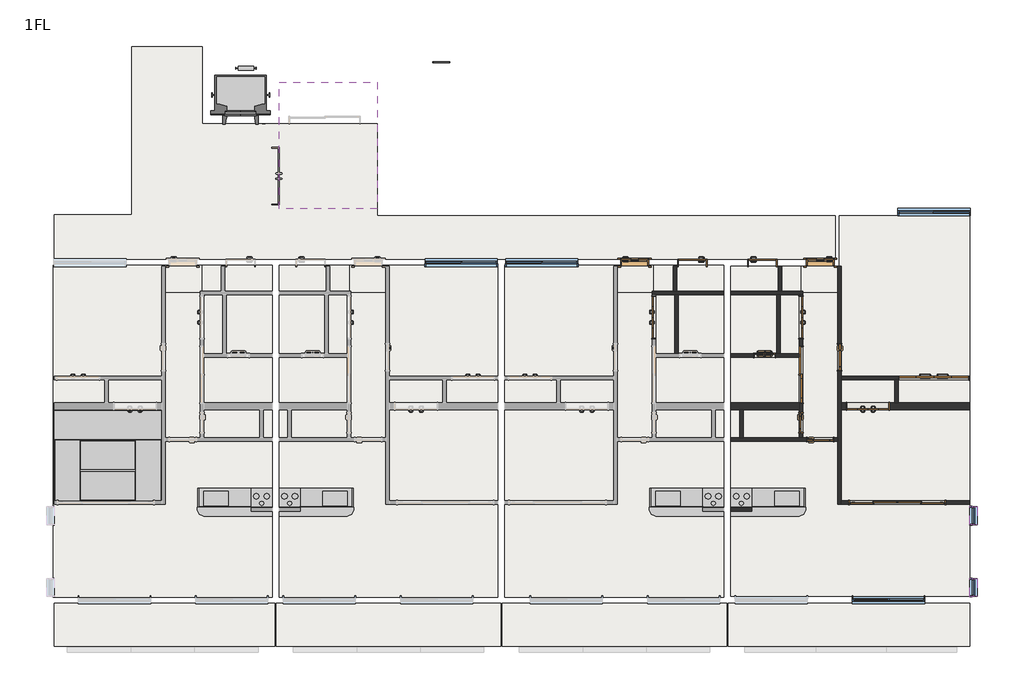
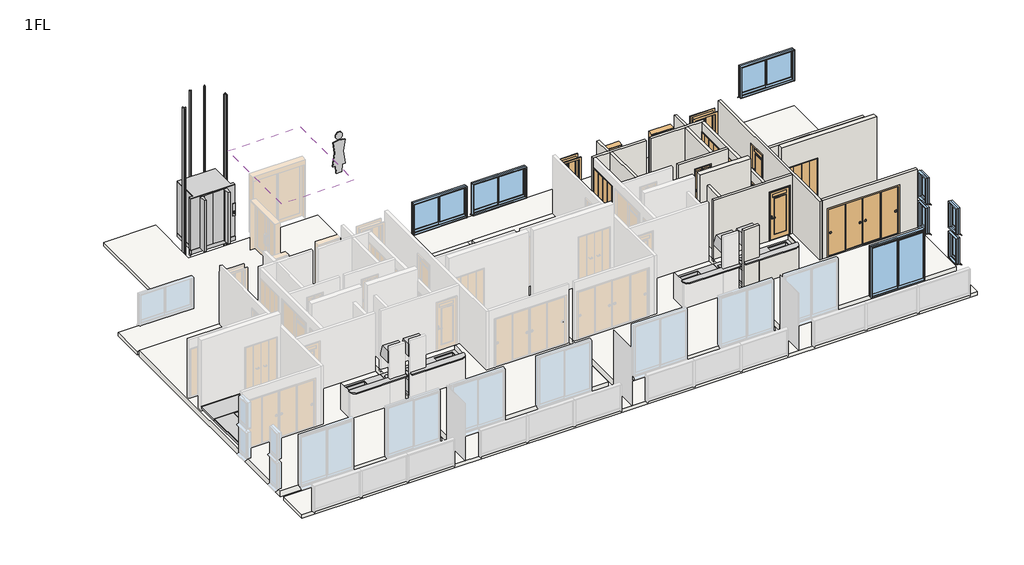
# One storey, part 3 of 3: 19 walls, 14 doors, 14 slabs, 8 windows, 5 furniture elements, 4 flow terminals, 2 proxies, 1 roof.
"""IFC4 building model written with IfcOpenShell, lengths in millimetres."""

from ifc_helpers import new_model, si_unit, frame, origin, place, context, project, spatial, polyline, outline, extrude, faceted_brep, transform, mapped, element, save
from components import entourage_8370d26b, mechanical_equipment_3dd84d69, door_800x2000_a7d1584b, door_800x2000_010bfebf, w1200h2000_ebe1d490, w1200h2000_6a144d60, w1200h2000_99d19fb3, w1600h2000_ca690e72, w2000h2000_5dbb6d6a, w2800h2000_04aa64cd, w600h2000_94bb9c3c, w600h2000_8ea70a65, w800h2000_1d97c4d4, w800h2000_0ab7d42c, w800h2000_13e9f519, w800h2000_ccb03061, flow_terminal_5276808d, flow_terminal_b13850ba, furniture_3a0496f9, furniture_64ff5e1c, furniture_dadabe7c, window_2000x1200_fc91d1cf, window_2000x2000_f1ff98da, window_450x1000_1cddc73c

model = new_model("IFC4")

# Units and contexts
model_context = context("Model", 3, world=origin())
ifc_project = project(units=[si_unit("LENGTHUNIT", "METRE", prefix="MILLI")], contexts=[model_context])

# Site, building, storey
site = spatial("IfcSite", under=ifc_project)
building = spatial("IfcBuilding", under=site)
storey = spatial("IfcBuildingStorey", under=building, Name="1FL", Elevation=1000.0)

# Proxies
placement = place(None, origin())
entourage_shape = entourage_8370d26b(model_context)
element("IfcBuildingElementProxy", 1, Name="M_RPC 女性 : Cynthia", ObjectType="M_RPC 女性 : Cynthia", at=placement, inside=storey, context=model_context, shape_type="MappedRepresentation", body=[
    mapped(entourage_shape, transform((0.0, 0.0, 1000.0), x_axis=(1.0, 0.0, 0.0), y_axis=(0.0, 1.0, 0.0), z_axis=(0.0, 0.0, 1.0))),
])
mechanical_equipment_shape = mechanical_equipment_3dd84d69(model_context)
element("IfcBuildingElementProxy", 2, Name="エレベーター一般1 : 6人乗", ObjectType="エレベーター一般1 : 6人乗", at=placement, inside=storey, context=model_context, shape_type="MappedRepresentation", body=[
    mapped(mechanical_equipment_shape, transform((-5728.7187246, -1650.1171638, 1000.0), x_axis=(1.0, 0.0, 0.0), y_axis=(0.0, 1.0, 0.0), z_axis=(0.0, 0.0, 1.0))),
])

# Doors
door_800x2000_shape = door_800x2000_a7d1584b(model_context)
element("IfcDoor", 3, ObjectType="片開き3 : 800x2000", at=placement, inside=storey, context=model_context, shape_type="MappedRepresentation", body=[
    mapped(door_800x2000_shape, transform((5521.2812754, -5726.3671638, 1000.0), x_axis=(1.0, 0.0, 0.0), y_axis=(0.0, 1.0, 0.0), z_axis=(0.0, 0.0, 1.0))),
])
door_800x2000_2_shape = door_800x2000_010bfebf(model_context)
element("IfcDoor", 4, ObjectType="片開き3 : 800x2000", at=placement, inside=storey, context=model_context, shape_type="MappedRepresentation", body=[
    mapped(door_800x2000_2_shape, transform((10821.2812754, -5726.3671638, 1000.0), x_axis=(-1.0, 0.0, 0.0), y_axis=(0.0, -1.0, 0.0), z_axis=(0.0, 0.0, 1.0))),
])
w1200h2000_shape = w1200h2000_ebe1d490(model_context)
element("IfcDoor", 5, ObjectType="木製折戸 : w1200h2000", at=placement, inside=storey, context=model_context, shape_type="MappedRepresentation", body=[
    mapped(w1200h2000_shape, transform((12183.7812754, -9820.1171638, 1100.0), x_axis=(1.0, 0.0, 0.0), y_axis=(0.0, 1.0, 0.0), z_axis=(0.0, 0.0, 1.0))),
])
w1200h2000_2_shape = w1200h2000_6a144d60(model_context)
element("IfcDoor", 6, ObjectType="木製折戸 : w1200h2000", at=placement, inside=storey, context=model_context, shape_type="MappedRepresentation", body=[
    mapped(w1200h2000_2_shape, transform((6071.2812754, -7280.1171638, 1100.0), x_axis=(0.0, 1.0, 0.0), y_axis=(-1.0, 0.0, 0.0), z_axis=(0.0, 0.0, 1.0))),
])
w1200h2000_3_shape = w1200h2000_99d19fb3(model_context)
element("IfcDoor", 7, ObjectType="木製折戸 : w1200h2000", at=placement, inside=storey, context=model_context, shape_type="MappedRepresentation", body=[
    mapped(w1200h2000_3_shape, transform((10271.2812754, -7280.1171638, 1100.0), x_axis=(0.0, 1.0, 0.0), y_axis=(-1.0, 0.0, 0.0), z_axis=(0.0, 0.0, 1.0))),
])
w1600h2000_shape = w1600h2000_ca690e72(model_context)
element("IfcDoor", 8, ObjectType="片引戸CL2017 : w1600h2000", at=placement, inside=storey, context=model_context, shape_type="MappedRepresentation", body=[
    mapped(w1600h2000_shape, transform((10271.2812754, -8920.1171638, 1100.0), x_axis=(0.0, -1.0, 0.0), y_axis=(1.0, 0.0, 0.0), z_axis=(0.0, 0.0, 1.0))),
])
w2000h2000_shape = w2000h2000_5dbb6d6a(model_context)
element("IfcDoor", 9, ObjectType="木製折戸 : w2000h2000", at=placement, inside=storey, context=model_context, shape_type="MappedRepresentation", body=[
    mapped(w2000h2000_shape, transform((14066.2812754, -9020.1171638, 1100.0), x_axis=(-1.0, 0.0, 0.0), y_axis=(0.0, -1.0, 0.0), z_axis=(0.0, 0.0, 1.0))),
])
w2800h2000_shape = w2800h2000_04aa64cd(model_context)
element("IfcDoor", 10, ObjectType="引違い 4 枚 2 溝_襖 : w2800h2000", at=placement, inside=storey, context=model_context, shape_type="MappedRepresentation", body=[
    mapped(w2800h2000_shape, transform((13026.8167793, -12570.1171638, 1100.0), x_axis=(1.0, 0.0, 0.0), y_axis=(0.0, 1.0, 0.0), z_axis=(0.0, 0.0, 1.0))),
])
w600h2000_shape = w600h2000_94bb9c3c(model_context)
element("IfcDoor", 11, ObjectType="浴室折戸 : w600h2000", at=placement, inside=storey, context=model_context, shape_type="MappedRepresentation", body=[
    mapped(w600h2000_shape, transform((9231.2812754, -8370.1171638, 1100.0), x_axis=(-1.0, 0.0, 0.0), y_axis=(0.0, -1.0, 0.0), z_axis=(0.0, 0.0, 1.0))),
])
w600h2000_2_shape = w600h2000_8ea70a65(model_context)
element("IfcDoor", 12, ObjectType="片開戸CL2058 : w600h2000", at=placement, inside=storey, context=model_context, shape_type="MappedRepresentation", body=[
    mapped(w600h2000_2_shape, transform((10271.2812754, -10295.1171638, 1100.0), x_axis=(0.0, -1.0, 0.0), y_axis=(1.0, 0.0, 0.0), z_axis=(0.0, 0.0, 1.0))),
])
w800h2000_shape = w800h2000_1d97c4d4(model_context)
element("IfcDoor", 13, ObjectType="片開 : w800h2000", at=placement, inside=storey, context=model_context, shape_type="MappedRepresentation", body=[
    mapped(w800h2000_shape, transform((7171.2812754, -5726.3671638, 1000.0), x_axis=(-1.0, 0.0, 0.0), y_axis=(0.0, -1.0, 0.0), z_axis=(0.0, 0.0, 1.0))),
])
w800h2000_2_shape = w800h2000_0ab7d42c(model_context)
element("IfcDoor", 14, ObjectType="片開 : w800h2000", at=placement, inside=storey, context=model_context, shape_type="MappedRepresentation", body=[
    mapped(w800h2000_2_shape, transform((9171.2812754, -5726.3671638, 1000.0), x_axis=(1.0, 0.0, 0.0), y_axis=(0.0, 1.0, 0.0), z_axis=(0.0, 0.0, 1.0))),
])
w800h2000_3_shape = w800h2000_13e9f519(model_context)
element("IfcDoor", 15, ObjectType="片開戸CL2058 : w800h2000", at=placement, inside=storey, context=model_context, shape_type="MappedRepresentation", body=[
    mapped(w800h2000_3_shape, transform((10821.2812754, -10770.1171638, 1100.0), x_axis=(1.0, 0.0, 0.0), y_axis=(0.0, 1.0, 0.0), z_axis=(0.0, 0.0, 1.0))),
])
w800h2000_4_shape = w800h2000_ccb03061(model_context)
element("IfcDoor", 16, ObjectType="片開戸CL2058 : w800h2000", at=placement, inside=storey, context=model_context, shape_type="MappedRepresentation", body=[
    mapped(w800h2000_4_shape, transform((11371.2812754, -8420.1171638, 1100.0), x_axis=(0.0, -1.0, 0.0), y_axis=(1.0, 0.0, 0.0), z_axis=(0.0, 0.0, 1.0))),
])

# Flow terminals
flow_terminal_shape = flow_terminal_5276808d(model_context)
element("IfcFlowTerminal", 17, ObjectType="システムキッチンIH : システムキッチンIH", at=placement, inside=storey, context=model_context, shape_type="MappedRepresentation", body=[
    mapped(flow_terminal_shape, transform((-4828.7187246, -12720.1171638, 1200.0), x_axis=(1.0000000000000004, 0.0, 0.0), y_axis=(0.0, 1.0000000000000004, 0.0), z_axis=(0.0, 0.0, 1.0))),
])
element("IfcFlowTerminal", 18, ObjectType="システムキッチンIH : システムキッチンIH", at=placement, inside=storey, context=model_context, shape_type="MappedRepresentation", body=[
    mapped(flow_terminal_shape, transform((8071.2812754, -12720.1171638, 1200.0), x_axis=(1.0, 0.0, 0.0), y_axis=(0.0, 1.0, 0.0), z_axis=(0.0, 0.0, 1.0))),
])
flow_terminal_2_shape = flow_terminal_b13850ba(model_context)
element("IfcFlowTerminal", 19, ObjectType="システムキッチンIH : システムキッチンIH", at=placement, inside=storey, context=model_context, shape_type="MappedRepresentation", body=[
    mapped(flow_terminal_2_shape, transform((-4628.7187246, -12720.1171638, 1200.0), x_axis=(-1.0, 0.0, 0.0), y_axis=(0.0, -1.0, 0.0), z_axis=(0.0, 0.0, 1.0))),
])
element("IfcFlowTerminal", 20, ObjectType="システムキッチンIH : システムキッチンIH", at=placement, inside=storey, context=model_context, shape_type="MappedRepresentation", body=[
    mapped(flow_terminal_2_shape, transform((8271.2812754, -12720.1171638, 1200.0), x_axis=(-1.0, 0.0, 0.0), y_axis=(0.0, -1.0, 0.0), z_axis=(0.0, 0.0, 1.0))),
])

# Furniture
furniture_shape = furniture_3a0496f9(model_context)
element("IfcFurniture", 21, ObjectType="キッチンカウンター : キッチンカウンター", at=placement, inside=storey, context=model_context, shape_type="MappedRepresentation", body=[
    mapped(furniture_shape, transform((-4628.7187246, -12820.1171638, 1100.0), x_axis=(-1.0, 0.0, 0.0), y_axis=(0.0, -1.0, 0.0), z_axis=(0.0, 0.0, 1.0))),
])
element("IfcFurniture", 22, ObjectType="キッチンカウンター : キッチンカウンター", at=placement, inside=storey, context=model_context, shape_type="MappedRepresentation", body=[
    mapped(furniture_shape, transform((8271.2812754, -12820.1171638, 1100.0), x_axis=(-1.0, 0.0, 0.0), y_axis=(0.0, -1.0, 0.0), z_axis=(0.0, 0.0, 1.0))),
])
furniture_2_shape = furniture_64ff5e1c(model_context)
element("IfcFurniture", 23, ObjectType="畳_6畳 : 畳_6畳", at=placement, inside=storey, context=model_context, shape_type="MappedRepresentation", body=[
    mapped(furniture_2_shape, transform((-9515.5937246, -11220.1171638, 1100.0), x_axis=(0.0, -1.0000000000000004, 0.0), y_axis=(1.0000000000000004, 0.0, 0.0), z_axis=(0.0, 0.0, 1.0))),
])
furniture_3_shape = furniture_dadabe7c(model_context)
element("IfcFurniture", 24, ObjectType="キッチンカウンター : キッチンカウンター", at=placement, inside=storey, context=model_context, shape_type="MappedRepresentation", body=[
    mapped(furniture_3_shape, transform((-4828.7187246, -12820.1171638, 1100.0), x_axis=(1.0, 0.0, 0.0), y_axis=(0.0, 1.0, 0.0), z_axis=(0.0, 0.0, 1.0))),
])
element("IfcFurniture", 25, ObjectType="キッチンカウンター : キッチンカウンター", at=placement, inside=storey, context=model_context, shape_type="MappedRepresentation", body=[
    mapped(furniture_3_shape, transform((8071.2812754, -12820.1171638, 1100.0), x_axis=(1.0, 0.0, 0.0), y_axis=(0.0, 1.0, 0.0), z_axis=(0.0, 0.0, 1.0))),
])

# Roof
element("IfcRoof", 26, ObjectType="RC150", at=placement, inside=storey, context=model_context, shape_type="SweptSolid", body=[
    extrude(outline(polyline([(-1828.7187246, -4176.3671638), (-4628.7187246, -4176.3671638), (-4628.7187246, -576.3671638), (-1828.7187246, -576.3671638), (-1828.7187246, -4176.3671638)])), frame((0.0, 0.0, 3850.0), z_axis=(0.0, 0.0, 1.0), x_axis=(1.0, 0.0, 0.0)), (0.0, 0.0, 1.0), 150.0),
])

# Slabs
element("IfcSlab", 27, ObjectType="RC150＋100", at=placement, inside=storey, context=model_context, shape_type="SweptSolid", body=[
    extrude(outline(polyline([(-4828.7187246, -15270.1171638), (-11078.7187246, -15270.1171638), (-11078.7187246, -5800.1171638), (-7928.7187246, -5800.1171638), (-7928.7187246, -6580.1171638), (-6828.7187246, -6580.1171638), (-6828.7187246, -5800.1171638), (-4828.7187246, -5800.1171638), (-4828.7187246, -6580.1171638), (-6188.7187246, -6580.1171638), (-6188.7187246, -8370.1171638), (-4828.7187246, -8370.1171638), (-4828.7187246, -15270.1171638)])), frame((0.0, 0.0, 850.0), z_axis=(0.0, 0.0, 1.0), x_axis=(1.0, 0.0, 0.0)), (0.0, 0.0, 1.0), 250.0),
])
element("IfcSlab", 28, ObjectType="RC150＋100", at=placement, inside=storey, context=model_context, shape_type="SweptSolid", body=[
    extrude(outline(polyline([(-4628.7187246, -15270.1171638), (-4628.7187246, -8370.1171638), (-3268.7187246, -8370.1171638), (-3268.7187246, -6580.1171638), (-4628.7187246, -6580.1171638), (-4628.7187246, -5800.1171638), (-2628.7187246, -5800.1171638), (-2628.7187246, -6580.1171638), (-1528.7187246, -6580.1171638), (-1528.7187246, -5800.1171638), (1621.2812754, -5800.1171638), (1621.2812754, -15270.1171638), (-4628.7187246, -15270.1171638)])), frame((0.0, 0.0, 850.0), z_axis=(0.0, 0.0, 1.0), x_axis=(1.0, 0.0, 0.0)), (0.0, 0.0, 1.0), 250.0),
])
element("IfcSlab", 29, ObjectType="RC150＋100", at=placement, inside=storey, context=model_context, shape_type="SweptSolid", body=[
    extrude(outline(polyline([(8071.2812754, -15270.1171638), (1821.2812754, -15270.1171638), (1821.2812754, -5800.1171638), (4971.2812754, -5800.1171638), (4971.2812754, -6580.1171638), (6071.2812754, -6580.1171638), (6071.2812754, -5800.1171638), (8071.2812754, -5800.1171638), (8071.2812754, -6580.1171638), (6711.2812754, -6580.1171638), (6711.2812754, -8370.1171638), (8071.2812754, -8370.1171638), (8071.2812754, -15270.1171638)])), frame((0.0, 0.0, 850.0), z_axis=(0.0, 0.0, 1.0), x_axis=(1.0, 0.0, 0.0)), (0.0, 0.0, 1.0), 250.0),
])
element("IfcSlab", 30, ObjectType="RC150＋100", at=placement, inside=storey, context=model_context, shape_type="SweptSolid", body=[
    extrude(outline(polyline([(8271.2812754, -15243.8671638), (8271.2812754, -8370.1171638), (9631.2812754, -8370.1171638), (9631.2812754, -6580.1171638), (8271.2812754, -6580.1171638), (8271.2812754, -5826.3671638), (10271.2812754, -5826.3671638), (10271.2812754, -6580.1171638), (11371.2812754, -6580.1171638), (11371.2812754, -4376.3671638), (15095.0312754, -4376.3671638), (15095.0312754, -15243.8671638), (8271.2812754, -15243.8671638)])), frame((0.0, 0.0, 850.0), z_axis=(0.0, 0.0, 1.0), x_axis=(1.0, 0.0, 0.0)), (0.0, 0.0, 1.0), 250.0),
])
element("IfcSlab", 31, ObjectType="RC150", at=placement, inside=storey, context=model_context, shape_type="SweptSolid", body=[
    extrude(outline(polyline([(-4828.7187246, -8370.1171638), (-6188.7187246, -8370.1171638), (-6188.7187246, -6580.1171638), (-4828.7187246, -6580.1171638), (-4828.7187246, -8370.1171638)])), frame((0.0, 0.0, 850.0), z_axis=(0.0, 0.0, 1.0), x_axis=(1.0, 0.0, 0.0)), (0.0, 0.0, 1.0), 150.0),
])
element("IfcSlab", 32, ObjectType="RC150", at=placement, inside=storey, context=model_context, shape_type="SweptSolid", body=[
    extrude(outline(polyline([(-6828.7187246, -6580.1171638), (-7928.7187246, -6580.1171638), (-7928.7187246, -5800.1171638), (-6828.7187246, -5800.1171638), (-6828.7187246, -6580.1171638)])), frame((0.0, 0.0, 800.0), z_axis=(0.0, 0.0, 1.0), x_axis=(1.0, 0.0, 0.0)), (0.0, 0.0, 1.0), 150.0),
])
element("IfcSlab", 33, ObjectType="RC150", at=placement, inside=storey, context=model_context, shape_type="SweptSolid", body=[
    extrude(outline(polyline([(-4628.7187246, -8370.1171638), (-4628.7187246, -6580.1171638), (-3268.7187246, -6580.1171638), (-3268.7187246, -8370.1171638), (-4628.7187246, -8370.1171638)])), frame((0.0, 0.0, 850.0), z_axis=(0.0, 0.0, 1.0), x_axis=(1.0, 0.0, 0.0)), (0.0, 0.0, 1.0), 150.0),
])
element("IfcSlab", 34, ObjectType="RC150", at=placement, inside=storey, context=model_context, shape_type="SweptSolid", body=[
    extrude(outline(polyline([(-2628.7187246, -6580.1171638), (-2628.7187246, -5800.1171638), (-1528.7187246, -5800.1171638), (-1528.7187246, -6580.1171638), (-2628.7187246, -6580.1171638)])), frame((0.0, 0.0, 800.0), z_axis=(0.0, 0.0, 1.0), x_axis=(1.0, 0.0, 0.0)), (0.0, 0.0, 1.0), 150.0),
])
element("IfcSlab", 35, ObjectType="RC150", at=placement, inside=storey, context=model_context, shape_type="SweptSolid", body=[
    extrude(outline(polyline([(8071.2812754, -8370.1171638), (6711.2812754, -8370.1171638), (6711.2812754, -6580.1171638), (8071.2812754, -6580.1171638), (8071.2812754, -8370.1171638)])), frame((0.0, 0.0, 850.0), z_axis=(0.0, 0.0, 1.0), x_axis=(1.0, 0.0, 0.0)), (0.0, 0.0, 1.0), 150.0),
])
element("IfcSlab", 36, ObjectType="RC150", at=placement, inside=storey, context=model_context, shape_type="SweptSolid", body=[
    extrude(outline(polyline([(6071.2812754, -6580.1171638), (4971.2812754, -6580.1171638), (4971.2812754, -5800.1171638), (6071.2812754, -5800.1171638), (6071.2812754, -6580.1171638)])), frame((0.0, 0.0, 800.0), z_axis=(0.0, 0.0, 1.0), x_axis=(1.0, 0.0, 0.0)), (0.0, 0.0, 1.0), 150.0),
])
element("IfcSlab", 37, ObjectType="RC150", at=placement, inside=storey, context=model_context, shape_type="SweptSolid", body=[
    extrude(outline(polyline([(8271.2812754, -8370.1171638), (8271.2812754, -6580.1171638), (9631.2812754, -6580.1171638), (9631.2812754, -8370.1171638), (8271.2812754, -8370.1171638)])), frame((0.0, 0.0, 850.0), z_axis=(0.0, 0.0, 1.0), x_axis=(1.0, 0.0, 0.0)), (0.0, 0.0, 1.0), 150.0),
])
element("IfcSlab", 38, ObjectType="RC150", at=placement, inside=storey, context=model_context, shape_type="SweptSolid", body=[
    extrude(outline(polyline([(10271.2812754, -6580.1171638), (10271.2812754, -5826.3671638), (11371.2812754, -5826.3671638), (11371.2812754, -6580.1171638), (10271.2812754, -6580.1171638)])), frame((0.0, 0.0, 800.0), z_axis=(0.0, 0.0, 1.0), x_axis=(1.0, 0.0, 0.0)), (0.0, 0.0, 1.0), 150.0),
])
element("IfcSlab", 39, ObjectType="RC150", at=placement, inside=storey, context=model_context, shape_type="SweptSolid", body=[
    extrude(outline(polyline([(-8828.7187246, -4350.1171638), (-8828.7187246, 449.8828362), (-6828.7187246, 449.8828362), (-6828.7187246, -1750.1171638), (-1828.7187246, -1750.1171638), (-1828.7187246, -4376.3671638), (11247.5312754, -4376.3671638), (11247.5312754, -5626.3671638), (-11052.4687246, -5626.3671638), (-11052.4687246, -4350.1171638), (-8828.7187246, -4350.1171638)])), frame((0.0, 0.0, 800.0), z_axis=(0.0, 0.0, 1.0), x_axis=(1.0, 0.0, 0.0)), (0.0, 0.0, 1.0), 150.0),
])
element("IfcSlab", 40, ObjectType="RC150", at=placement, inside=storey, context=model_context, shape_type="SweptSolid", body=[
    extrude(outline(polyline([(15095.0312754, -15443.8671638), (15095.0312754, -16670.1171638), (-11052.4687246, -16670.1171638), (-11052.4687246, -15443.8671638), (15095.0312754, -15443.8671638)])), frame((0.0, 0.0, 800.0), z_axis=(0.0, 0.0, 1.0), x_axis=(1.0, 0.0, 0.0)), (0.0, 0.0, 1.0), 150.0),
])

# Walls
element("IfcWall", 41, ObjectType="内壁(R)RC200", at=placement, inside=storey, context=model_context, shape_type="Brep", body=[
    faceted_brep([(15095.0312754, -9720.1171638, 1000.0), (13046.2812754, -9720.1171638, 1000.0), (12946.2812754, -9720.1171638, 1000.0), (11421.2812754, -9720.1171638, 1000.0), (11421.2812754, -9720.1171638, 4000.0), (15095.0312754, -9720.1171638, 4000.0), (12803.7812754, -9720.1171638, 3120.0), (11563.7812754, -9720.1171638, 3120.0), (11563.7812754, -9720.1171638, 1100.0), (12803.7812754, -9720.1171638, 1100.0), (15095.0312754, -9920.1171638, 1000.0), (15095.0312754, -9920.1171638, 4000.0), (11421.2812754, -9920.1171638, 4000.0), (11421.2812754, -9920.1171638, 1000.0), (12803.7812754, -9920.1171638, 3120.0), (12803.7812754, -9920.1171638, 1100.0), (11563.7812754, -9920.1171638, 1100.0), (11563.7812754, -9920.1171638, 3120.0)], [[[0, 1, 2, 3, 4, 5], [6, 7, 8, 9]], [[10, 11, 12, 13], [14, 15, 16, 17]], [[3, 2, 1, 0, 10, 13]], [[5, 4, 12, 11]], [[4, 3, 13, 12]], [[15, 14, 6, 9]], [[16, 15, 9, 8]], [[17, 16, 8, 7]], [[14, 17, 7, 6]], [[0, 5, 11, 10]]]),
])
element("IfcWall", 42, ObjectType="内壁(R)RC200", at=placement, inside=storey, context=model_context, shape_type="Brep", body=[
    faceted_brep([(10221.2812754, -9720.1171638, 1000.0), (8271.2812754, -9720.1171638, 1000.0), (8271.2812754, -9720.1171638, 4000.0), (10221.2812754, -9720.1171638, 4000.0), (10221.2812754, -9920.1171638, 1000.0), (10221.2812754, -9920.1171638, 4000.0), (8271.2812754, -9920.1171638, 4000.0), (8271.2812754, -9920.1171638, 1000.0), (8521.2812754, -9920.1171638, 1000.0), (8621.2812754, -9920.1171638, 1000.0)], [[[0, 1, 2, 3]], [[4, 5, 6, 7, 8, 9]], [[1, 0, 4, 9, 8, 7]], [[3, 2, 6, 5]], [[0, 3, 5, 4]], [[2, 1, 7, 6]]]),
])
element("IfcWall", 43, ObjectType="(F)30", at=placement, inside=storey, context=model_context, shape_type="SweptSolid", body=[
    extrude(outline(polyline([(10363.6749911, -12720.1171638), (10363.6749911, -12165.1171638), (10393.6749911, -12165.1171638), (10393.6749911, -12720.1171638), (10363.6749911, -12720.1171638)])), frame((0.0, 0.0, 1100.0), z_axis=(0.0, 0.0, 1.0), x_axis=(1.0, 0.0, 0.0)), (0.0, 0.0, 1.0), 1060.0),
])
element("IfcWall", 44, ObjectType="(L1)LGS100", at=placement, inside=storey, context=model_context, shape_type="Brep", body=[
    faceted_brep([(6021.2812754, -6630.1171638, 1000.0), (6121.2812754, -6630.1171638, 1000.0), (6661.2812754, -6630.1171638, 1000.0), (6761.2812754, -6630.1171638, 1000.0), (8071.2812754, -6630.1171638, 1000.0), (8071.2812754, -6630.1171638, 3500.0), (6761.2812754, -6630.1171638, 3500.0), (6661.2812754, -6630.1171638, 3500.0), (6121.2812754, -6630.1171638, 3500.0), (6021.2812754, -6630.1171638, 3500.0), (6021.2812754, -6530.1171638, 1000.0), (6021.2812754, -6530.1171638, 3500.0), (6621.2812754, -6530.1171638, 3500.0), (6721.2812754, -6530.1171638, 3500.0), (8071.2812754, -6530.1171638, 3500.0), (8071.2812754, -6530.1171638, 1000.0), (6721.2812754, -6530.1171638, 1000.0), (6621.2812754, -6530.1171638, 1000.0)], [[[0, 1, 2, 3, 4, 5, 6, 7, 8, 9]], [[10, 11, 12, 13, 14, 15, 16, 17]], [[4, 3, 2, 1, 0, 10, 17, 16, 15]], [[9, 8, 7, 6, 5, 14, 13, 12, 11]], [[0, 9, 11, 10]], [[5, 4, 15, 14]]]),
])
element("IfcWall", 45, ObjectType="(L1)LGS100", at=placement, inside=storey, context=model_context, shape_type="SweptSolid", body=[
    extrude(outline(polyline([(6721.2812754, -5826.3671638), (6721.2812754, -6530.1171638), (6621.2812754, -6530.1171638), (6621.2812754, -5826.3671638), (6721.2812754, -5826.3671638)])), frame((0.0, 0.0, 1000.0), z_axis=(0.0, 0.0, 1.0), x_axis=(1.0, 0.0, 0.0)), (0.0, 0.0, 1.0), 2500.0),
])
element("IfcWall", 46, ObjectType="(L1)LGS100", at=placement, inside=storey, context=model_context, shape_type="SweptSolid", body=[
    extrude(outline(polyline([(6761.2812754, -6630.1171638), (6761.2812754, -8320.1171638), (6661.2812754, -8320.1171638), (6661.2812754, -6630.1171638), (6761.2812754, -6630.1171638)])), frame((0.0, 0.0, 1000.0), z_axis=(0.0, 0.0, 1.0), x_axis=(1.0, 0.0, 0.0)), (0.0, 0.0, 1.0), 2500.0),
])
element("IfcWall", 47, ObjectType="(L1)LGS100", at=placement, inside=storey, context=model_context, shape_type="Brep", body=[
    faceted_brep([(15095.0312754, -8970.1171638, 1000.0), (11421.2812754, -8970.1171638, 1000.0), (11421.2812754, -8970.1171638, 3500.0), (15095.0312754, -8970.1171638, 3500.0), (13046.2812754, -8970.1171638, 3120.0), (13046.2812754, -8970.1171638, 1100.0), (15086.2812754, -8970.1171638, 1100.0), (15086.2812754, -8970.1171638, 3120.0), (11421.2812754, -9070.1171638, 1000.0), (12946.2812754, -9070.1171638, 1000.0), (13046.2812754, -9070.1171638, 1000.0), (15095.0312754, -9070.1171638, 1000.0), (15095.0312754, -9070.1171638, 3500.0), (13046.2812754, -9070.1171638, 3500.0), (12946.2812754, -9070.1171638, 3500.0), (11421.2812754, -9070.1171638, 3500.0), (13046.2812754, -9070.1171638, 1100.0), (13046.2812754, -9070.1171638, 3120.0), (15086.2812754, -9070.1171638, 3120.0), (15086.2812754, -9070.1171638, 1100.0)], [[[0, 1, 2, 3], [4, 5, 6, 7]], [[8, 9, 10, 11, 12, 13, 14, 15], [16, 17, 18, 19]], [[1, 0, 11, 10, 9, 8]], [[3, 2, 15, 14, 13, 12]], [[2, 1, 8, 15]], [[4, 17, 16, 5]], [[5, 16, 19, 6]], [[17, 4, 7, 18]], [[18, 7, 6, 19]], [[0, 3, 12, 11]]]),
])
element("IfcWall", 48, ObjectType="(L1)LGS100", at=placement, inside=storey, context=model_context, shape_type="Brep", body=[
    faceted_brep([(13046.2812754, -9720.1171638, 1000.0), (13046.2812754, -9070.1171638, 1000.0), (13046.2812754, -9070.1171638, 1100.0), (13046.2812754, -9070.1171638, 3120.0), (13046.2812754, -9070.1171638, 3500.0), (13046.2812754, -9720.1171638, 3500.0), (12946.2812754, -9720.1171638, 1000.0), (12946.2812754, -9720.1171638, 3500.0), (12946.2812754, -9070.1171638, 3500.0), (12946.2812754, -9070.1171638, 1000.0)], [[[0, 1, 2, 3, 4, 5]], [[6, 7, 8, 9]], [[1, 0, 6, 9]], [[5, 4, 8, 7]], [[0, 5, 7, 6]], [[4, 3, 2, 1, 9, 8]]]),
])
element("IfcWall", 49, ObjectType="(L1)LGS100", at=placement, inside=storey, context=model_context, shape_type="Brep", body=[
    faceted_brep([(11421.2812754, -12620.1171638, 1000.0), (11421.2812754, -12520.1171638, 1000.0), (11421.2812754, -9920.1171638, 1000.0), (11421.2812754, -9720.1171638, 1000.0), (11421.2812754, -9070.1171638, 1000.0), (11421.2812754, -8970.1171638, 1000.0), (11421.2812754, -5826.3671638, 1000.0), (11421.2812754, -5826.3671638, 3500.0), (11421.2812754, -8970.1171638, 3500.0), (11421.2812754, -9070.1171638, 3500.0), (11421.2812754, -12520.1171638, 3500.0), (11421.2812754, -12620.1171638, 3500.0), (11421.2812754, -8820.1171638, 1100.0), (11421.2812754, -8820.1171638, 3100.0), (11421.2812754, -8020.1171638, 3100.0), (11421.2812754, -8020.1171638, 1100.0), (11321.2812754, -12620.1171638, 1000.0), (11321.2812754, -12620.1171638, 3500.0), (11321.2812754, -10820.1171638, 3500.0), (11321.2812754, -10720.1171638, 3500.0), (11321.2812754, -5826.3671638, 3500.0), (11321.2812754, -5826.3671638, 1000.0), (11321.2812754, -10720.1171638, 1000.0), (11321.2812754, -10820.1171638, 1000.0), (11321.2812754, -8820.1171638, 1100.0), (11321.2812754, -8020.1171638, 1100.0), (11321.2812754, -8020.1171638, 3100.0), (11321.2812754, -8820.1171638, 3100.0)], [[[0, 1, 2, 3, 4, 5, 6, 7, 8, 9, 10, 11], [12, 13, 14, 15]], [[16, 17, 18, 19, 20, 21, 22, 23], [24, 25, 26, 27]], [[6, 5, 4, 3, 2, 1, 0, 16, 23, 22, 21]], [[11, 10, 9, 8, 7, 20, 19, 18, 17]], [[0, 11, 17, 16]], [[13, 12, 24, 27]], [[14, 13, 27, 26]], [[15, 14, 26, 25]], [[12, 15, 25, 24]], [[7, 6, 21, 20]]]),
])
element("IfcWall", 50, ObjectType="(L1)LGS100", at=placement, inside=storey, context=model_context, shape_type="Brep", body=[
    faceted_brep([(10221.2812754, -8320.1171638, 1000.0), (9681.2812754, -8320.1171638, 1000.0), (9581.2812754, -8320.1171638, 1000.0), (8271.2812754, -8320.1171638, 1000.0), (8271.2812754, -8320.1171638, 3500.0), (9581.2812754, -8320.1171638, 3500.0), (9681.2812754, -8320.1171638, 3500.0), (10221.2812754, -8320.1171638, 3500.0), (8911.2812754, -8320.1171638, 3120.0), (8911.2812754, -8320.1171638, 1100.0), (9551.2812754, -8320.1171638, 1100.0), (9551.2812754, -8320.1171638, 3120.0), (10221.2812754, -8420.1171638, 1000.0), (10221.2812754, -8420.1171638, 3500.0), (8271.2812754, -8420.1171638, 3500.0), (8271.2812754, -8420.1171638, 1000.0), (8911.2812754, -8420.1171638, 3120.0), (9551.2812754, -8420.1171638, 3120.0), (9551.2812754, -8420.1171638, 1100.0), (8911.2812754, -8420.1171638, 1100.0)], [[[0, 1, 2, 3, 4, 5, 6, 7], [8, 9, 10, 11]], [[12, 13, 14, 15], [16, 17, 18, 19]], [[3, 2, 1, 0, 12, 15]], [[7, 6, 5, 4, 14, 13]], [[0, 7, 13, 12]], [[9, 8, 16, 19]], [[10, 9, 19, 18]], [[11, 10, 18, 17]], [[8, 11, 17, 16]], [[4, 3, 15, 14]]]),
])
element("IfcWall", 51, ObjectType="(L1)LGS100", at=placement, inside=storey, context=model_context, shape_type="Brep", body=[
    faceted_brep([(10321.2812754, -10720.1171638, 1000.0), (10321.2812754, -6630.1171638, 1000.0), (10321.2812754, -6630.1171638, 3500.0), (10321.2812754, -10720.1171638, 3500.0), (10321.2812754, -10595.1171638, 1100.0), (10321.2812754, -10595.1171638, 3100.0), (10321.2812754, -9995.1171638, 3100.0), (10321.2812754, -9995.1171638, 1100.0), (10321.2812754, -6660.1171638, 1100.0), (10321.2812754, -7900.1171638, 1100.0), (10321.2812754, -7900.1171638, 3120.0), (10321.2812754, -6660.1171638, 3120.0), (10321.2812754, -9745.1171638, 1100.0), (10321.2812754, -9745.1171638, 3140.0), (10321.2812754, -8095.1171638, 3140.0), (10321.2812754, -8095.1171638, 1100.0), (10221.2812754, -6630.1171638, 1000.0), (10221.2812754, -8320.1171638, 1000.0), (10221.2812754, -8420.1171638, 1000.0), (10221.2812754, -9720.1171638, 1000.0), (10221.2812754, -9920.1171638, 1000.0), (10221.2812754, -10720.1171638, 1000.0), (10221.2812754, -10720.1171638, 3500.0), (10221.2812754, -8420.1171638, 3500.0), (10221.2812754, -8320.1171638, 3500.0), (10221.2812754, -6630.1171638, 3500.0), (10221.2812754, -10595.1171638, 3100.0), (10221.2812754, -10595.1171638, 1100.0), (10221.2812754, -9995.1171638, 1100.0), (10221.2812754, -9995.1171638, 3100.0), (10221.2812754, -7900.1171638, 1100.0), (10221.2812754, -6660.1171638, 1100.0), (10221.2812754, -6660.1171638, 3120.0), (10221.2812754, -7900.1171638, 3120.0), (10221.2812754, -9745.1171638, 1100.0), (10221.2812754, -8095.1171638, 1100.0), (10221.2812754, -8095.1171638, 3140.0), (10221.2812754, -9745.1171638, 3140.0)], [[[0, 1, 2, 3], [4, 5, 6, 7], [8, 9, 10, 11], [12, 13, 14, 15]], [[16, 17, 18, 19, 20, 21, 22, 23, 24, 25], [26, 27, 28, 29], [30, 31, 32, 33], [34, 35, 36, 37]], [[1, 0, 21, 20, 19, 18, 17, 16]], [[3, 2, 25, 24, 23, 22]], [[0, 3, 22, 21]], [[2, 1, 16, 25]], [[5, 4, 27, 26]], [[6, 5, 26, 29]], [[7, 6, 29, 28]], [[4, 7, 28, 27]], [[8, 31, 30, 9]], [[9, 30, 33, 10]], [[10, 33, 32, 11]], [[13, 12, 34, 37]], [[14, 13, 37, 36]], [[15, 14, 36, 35]], [[12, 15, 35, 34]], [[31, 8, 11, 32]]]),
])
element("IfcWall", 52, ObjectType="(L1)LGS100", at=placement, inside=storey, context=model_context, shape_type="Brep", body=[
    faceted_brep([(10321.2812754, -6530.1171638, 1000.0), (9721.2812754, -6530.1171638, 1000.0), (9621.2812754, -6530.1171638, 1000.0), (8271.2812754, -6530.1171638, 1000.0), (8271.2812754, -6530.1171638, 3500.0), (9621.2812754, -6530.1171638, 3500.0), (9721.2812754, -6530.1171638, 3500.0), (10321.2812754, -6530.1171638, 3500.0), (10321.2812754, -6630.1171638, 1000.0), (10321.2812754, -6630.1171638, 3500.0), (10221.2812754, -6630.1171638, 3500.0), (9681.2812754, -6630.1171638, 3500.0), (9581.2812754, -6630.1171638, 3500.0), (8271.2812754, -6630.1171638, 3500.0), (8271.2812754, -6630.1171638, 1000.0), (9581.2812754, -6630.1171638, 1000.0), (9681.2812754, -6630.1171638, 1000.0), (10221.2812754, -6630.1171638, 1000.0)], [[[0, 1, 2, 3, 4, 5, 6, 7]], [[8, 9, 10, 11, 12, 13, 14, 15, 16, 17]], [[3, 2, 1, 0, 8, 17, 16, 15, 14]], [[7, 6, 5, 4, 13, 12, 11, 10, 9]], [[0, 7, 9, 8]], [[4, 3, 14, 13]]]),
])
element("IfcWall", 53, ObjectType="(L1)LGS100", at=placement, inside=storey, context=model_context, shape_type="SweptSolid", body=[
    extrude(outline(polyline([(9721.2812754, -5826.3671638), (9721.2812754, -6530.1171638), (9621.2812754, -6530.1171638), (9621.2812754, -5826.3671638), (9721.2812754, -5826.3671638)])), frame((0.0, 0.0, 1000.0), z_axis=(0.0, 0.0, 1.0), x_axis=(1.0, 0.0, 0.0)), (0.0, 0.0, 1.0), 2500.0),
])
element("IfcWall", 54, ObjectType="(L1)LGS100", at=placement, inside=storey, context=model_context, shape_type="SweptSolid", body=[
    extrude(outline(polyline([(9681.2812754, -6630.1171638), (9681.2812754, -8320.1171638), (9581.2812754, -8320.1171638), (9581.2812754, -6630.1171638), (9681.2812754, -6630.1171638)])), frame((0.0, 0.0, 1000.0), z_axis=(0.0, 0.0, 1.0), x_axis=(1.0, 0.0, 0.0)), (0.0, 0.0, 1.0), 2500.0),
])
element("IfcWall", 55, ObjectType="(L1)LGS100", at=placement, inside=storey, context=model_context, shape_type="SweptSolid", body=[
    extrude(outline(polyline([(8621.2812754, -9920.1171638), (8621.2812754, -10720.1171638), (8521.2812754, -10720.1171638), (8521.2812754, -9920.1171638), (8621.2812754, -9920.1171638)])), frame((0.0, 0.0, 1000.0), z_axis=(0.0, 0.0, 1.0), x_axis=(1.0, 0.0, 0.0)), (0.0, 0.0, 1.0), 2500.0),
])
element("IfcWall", 56, ObjectType="(L1)LGS100", at=placement, inside=storey, context=model_context, shape_type="Brep", body=[
    faceted_brep([(11321.2812754, -10720.1171638, 1000.0), (10321.2812754, -10720.1171638, 1000.0), (10221.2812754, -10720.1171638, 1000.0), (8621.2812754, -10720.1171638, 1000.0), (8521.2812754, -10720.1171638, 1000.0), (8271.2812754, -10720.1171638, 1000.0), (8271.2812754, -10720.1171638, 3500.0), (8521.2812754, -10720.1171638, 3500.0), (8621.2812754, -10720.1171638, 3500.0), (10221.2812754, -10720.1171638, 3500.0), (10321.2812754, -10720.1171638, 3500.0), (11321.2812754, -10720.1171638, 3500.0), (11221.2812754, -10720.1171638, 1100.0), (11221.2812754, -10720.1171638, 3100.0), (10421.2812754, -10720.1171638, 3100.0), (10421.2812754, -10720.1171638, 1100.0), (8271.2812754, -10820.1171638, 1000.0), (11321.2812754, -10820.1171638, 1000.0), (11321.2812754, -10820.1171638, 3500.0), (8271.2812754, -10820.1171638, 3500.0), (11221.2812754, -10820.1171638, 3100.0), (11221.2812754, -10820.1171638, 1100.0), (10421.2812754, -10820.1171638, 1100.0), (10421.2812754, -10820.1171638, 3100.0)], [[[0, 1, 2, 3, 4, 5, 6, 7, 8, 9, 10, 11], [12, 13, 14, 15]], [[16, 17, 18, 19], [20, 21, 22, 23]], [[5, 4, 3, 2, 1, 0, 17, 16]], [[11, 10, 9, 8, 7, 6, 19, 18]], [[0, 11, 18, 17]], [[12, 21, 20, 13]], [[13, 20, 23, 14]], [[14, 23, 22, 15]], [[21, 12, 15, 22]], [[6, 5, 16, 19]]]),
])
element("IfcWall", 57, ObjectType="(L1)LGS100", at=placement, inside=storey, context=model_context, shape_type="SweptSolid", body=[
    extrude(outline(polyline([(1000.0, 15095.0312754), (3500.0, 15095.0312754), (3500.0, 11421.2812754), (1000.0, 11421.2812754), (1000.0, 15095.0312754)]), holes=[polyline([(3100.0, 14421.2812754), (1100.0, 14421.2812754), (1100.0, 11621.2812754), (3100.0, 11621.2812754), (3100.0, 14421.2812754)])]), frame((0.0, -12620.1171638, 0.0), z_axis=(0.0, 1.0, 0.0), x_axis=(0.0, 0.0, 1.0)), (0.0, 0.0, 1.0), 100.0),
])
element("IfcWall", 58, ObjectType="(L1)LGS100", at=placement, inside=storey, context=model_context, shape_type="Brep", body=[
    faceted_brep([(8271.2812754, -12820.1171638, 1000.0), (8871.2812754, -12820.1171638, 1000.0), (8871.2812754, -12820.1171638, 2160.0), (8871.2812754, -12820.1171638, 3500.0), (8271.2812754, -12820.1171638, 3500.0), (8271.2812754, -12720.1171638, 1000.0), (8271.2812754, -12720.1171638, 3500.0), (8871.2812754, -12720.1171638, 3500.0), (8871.2812754, -12720.1171638, 2160.0), (8871.2812754, -12720.1171638, 1000.0)], [[[0, 1, 2, 3, 4]], [[5, 6, 7, 8, 9]], [[1, 0, 5, 9]], [[3, 2, 1, 9, 8, 7]], [[4, 3, 7, 6]], [[0, 4, 6, 5]]]),
])
element("IfcWall", 59, ObjectType="(L1)LGS100", at=placement, inside=storey, context=model_context, shape_type="Brep", body=[
    faceted_brep([(10393.6749911, -12720.1171638, 1000.0), (8871.2812754, -12720.1171638, 1000.0), (8871.2812754, -12720.1171638, 2160.0), (10363.6749911, -12720.1171638, 2160.0), (10393.6749911, -12720.1171638, 2160.0), (10393.6749911, -12720.1171638, 1100.0), (10393.6749911, -12820.1171638, 1000.0), (10393.6749911, -12820.1171638, 2160.0), (8871.2812754, -12820.1171638, 2160.0), (8871.2812754, -12820.1171638, 1000.0)], [[[0, 1, 2, 3, 4, 5]], [[6, 7, 8, 9]], [[1, 0, 6, 9]], [[2, 1, 9, 8]], [[4, 3, 2, 8, 7]], [[0, 5, 4, 7, 6]]]),
])

# Windows
window_2000x1200_shape = window_2000x1200_fc91d1cf(model_context)
element("IfcWindow", 60, ObjectType="鋼製_一般枠_引違い-二枚 : 2000x1200", at=placement, inside=storey, context=model_context, shape_type="MappedRepresentation", body=[
    mapped(window_2000x1200_shape, transform((571.2812754, -5726.3671638, 1250.0), x_axis=(1.0, 0.0, 0.0), y_axis=(0.0, 1.0, 0.0), z_axis=(0.0, 0.0, 1.0))),
])
element("IfcWindow", 61, ObjectType="鋼製_一般枠_引違い-二枚 : 2000x1200", at=placement, inside=storey, context=model_context, shape_type="MappedRepresentation", body=[
    mapped(window_2000x1200_shape, transform((2871.2812754, -5726.3671638, 1250.0), x_axis=(1.0, 0.0, 0.0), y_axis=(0.0, 1.0, 0.0), z_axis=(0.0, 0.0, 1.0))),
])
element("IfcWindow", 62, ObjectType="鋼製_一般枠_引違い-二枚 : 2000x1200", at=placement, inside=storey, context=model_context, shape_type="MappedRepresentation", body=[
    mapped(window_2000x1200_shape, transform((14071.2812754, -4276.3671638, 1250.0), x_axis=(1.0, 0.0, 0.0), y_axis=(0.0, 1.0, 0.0), z_axis=(0.0, 0.0, 1.0))),
])
window_2000x2000_shape = window_2000x2000_f1ff98da(model_context)
element("IfcWindow", 63, ObjectType="鋼製_一般枠_引違い-二枚 : 2000x2000", at=placement, inside=storey, context=model_context, shape_type="MappedRepresentation", body=[
    mapped(window_2000x2000_shape, transform((12771.2812754, -15343.8671638, 200.0), x_axis=(-1.0, 0.0, 0.0), y_axis=(0.0, -1.0, 0.0), z_axis=(0.0, 0.0, 1.0))),
])
window_450x1000_shape = window_450x1000_1cddc73c(model_context)
element("IfcWindow", 64, ObjectType="鋼製_一般枠_嵌殺し : 450x1000", at=placement, inside=storey, context=model_context, shape_type="MappedRepresentation", body=[
    mapped(window_450x1000_shape, transform((15195.0312754, -14995.1171638, 10.0), x_axis=(0.0, 1.0, 0.0), y_axis=(-1.0, 0.0, 0.0), z_axis=(0.0, 0.0, 1.0))),
])
element("IfcWindow", 65, ObjectType="鋼製_一般枠_嵌殺し : 450x1000", at=placement, inside=storey, context=model_context, shape_type="MappedRepresentation", body=[
    mapped(window_450x1000_shape, transform((15195.0312754, -12945.1171638, 10.0), x_axis=(0.0, 1.0, 0.0), y_axis=(-1.0, 0.0, 0.0), z_axis=(0.0, 0.0, 1.0))),
])
element("IfcWindow", 66, ObjectType="鋼製_一般枠_嵌殺し : 450x1000", at=placement, inside=storey, context=model_context, shape_type="MappedRepresentation", body=[
    mapped(window_450x1000_shape, transform((15195.0312754, -14995.1171638, 1230.0), x_axis=(0.0, 1.0, 0.0), y_axis=(-1.0, 0.0, 0.0), z_axis=(0.0, 0.0, 1.0))),
])
element("IfcWindow", 67, ObjectType="鋼製_一般枠_嵌殺し : 450x1000", at=placement, inside=storey, context=model_context, shape_type="MappedRepresentation", body=[
    mapped(window_450x1000_shape, transform((15195.0312754, -12945.1171638, 1230.0), x_axis=(0.0, 1.0, 0.0), y_axis=(-1.0, 0.0, 0.0), z_axis=(0.0, 0.0, 1.0))),
])

save(model, "model.ifc")
